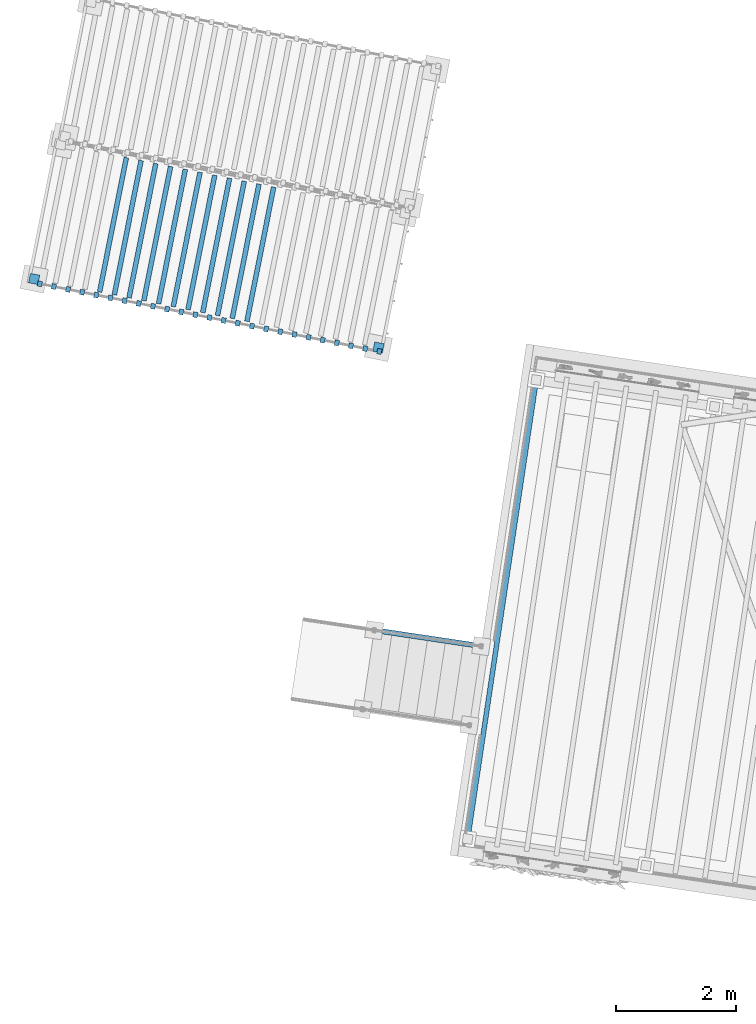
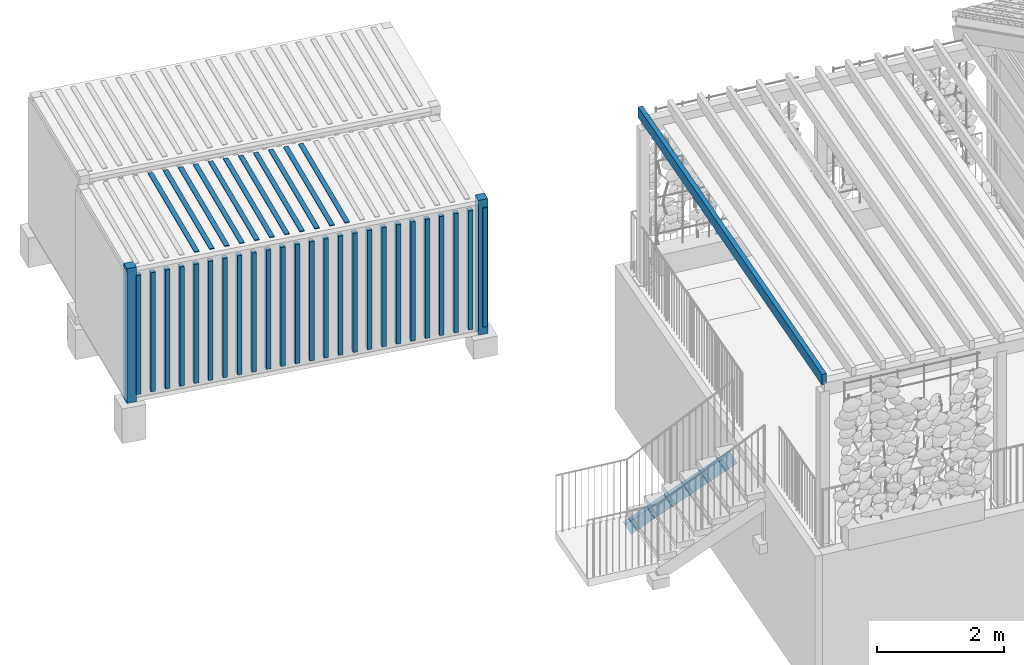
# One storey, part 23 of 128: 40 members, 3 elements without a shape of their own.
"""IFC4 building model written with IfcOpenShell, lengths in metres."""

from ifc_helpers import new_model, si_unit, direction, frame, origin_with_axes, place, context, subcontext, project, spatial, polyline, rectangle, outline, extrude, material, material_profile, profile_set, profile_usage, type_object, element, aggregate, save


model = new_model("IFC4")

# Units and contexts
model_context = context("Model", 3, precision=1e-05, world=origin_with_axes(), true_north=direction((0.0, 1.0)))
body_context = subcontext(model_context, "Body", "Model", "MODEL_VIEW")
ifc_project = project(units=[si_unit("VOLUMEUNIT", "CUBIC_METRE"), si_unit("LENGTHUNIT", "METRE"), si_unit("AREAUNIT", "SQUARE_METRE")], contexts=[model_context])

# Site, building, storey
site_placement = place(None, origin_with_axes())
site = spatial("IfcSite", under=ifc_project, at=site_placement, Name="Lares · Rua das Mercês · artigo 4771")
building_placement = place(site_placement, frame((15.0, 9.7, 13.9), z_axis=(0.0, 0.0, 1.0), x_axis=(0.989015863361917, -0.147809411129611, 0.0)))
building = spatial("IfcBuilding", under=site, at=building_placement, Name="Casa Sobreposta")
storey_placement = place(building_placement, origin_with_axes())
storey = spatial("IfcBuildingStorey", under=building, at=storey_placement, Name="00 · Habitação e estacionamento", Elevation=13.9)

# Stair, member
stair_placement = place(storey_placement, origin_with_axes())
stair = element("IfcStair", 1, at=stair_placement, inside=storey, Name="Jardim · escada pela fachada poente", PredefinedType="STRAIGHT_RUN_STAIR")
ifc_material_1 = material(Name="Aço pintado / Stahl lackiert", Category="steel")
ifc_material_profile_1 = material_profile(ifc_material_1, outline(polyline([(-0.0425, -0.12), (0.0425, -0.12), (0.0425, -0.1102), (-0.0325, -0.1102), (-0.0325, 0.1102), (0.0425, 0.1102), (0.0425, 0.12), (-0.0425, 0.12), (-0.0425, -0.12)])))
ifc_profile_set_1 = profile_set([ifc_material_profile_1], Name="C240")
ifc_profile_usage_1 = profile_usage(ifc_profile_set_1)
member_type_1 = type_object("IfcMemberType", Name="C240 / steel", PredefinedType="NOTDEFINED", material=ifc_profile_set_1)
member_1_placement = place(stair_placement, frame((-6.25, 1.765, -0.411428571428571), z_axis=(-0.892720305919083, 0.0, -0.450611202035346), x_axis=(0.0, 1.0, 0.0)))
member_1 = element("IfcMember", 2, at=member_1_placement, type_object=member_type_1, material=ifc_profile_usage_1, Name="Jardim · longarina poente", context=body_context, shape_type="SweptSolid", body=[
    extrude(outline(polyline([(-0.0425, -0.12), (0.0425, -0.12), (0.0425, -0.1102), (-0.0325, -0.1102), (-0.0325, 0.1102), (0.0425, 0.1102), (0.0425, 0.12), (-0.0425, 0.12), (-0.0425, -0.12)])), origin_with_axes(), (0.0, 0.0, 1.0), 2.01630901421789),
])
aggregate(stair, [member_1])

# Assembly, member
assembly_1_placement = place(storey_placement, origin_with_axes())
assembly_1 = element("IfcElementAssembly", 3, at=assembly_1_placement, inside=storey, Name="Pérgola de madeira · pátio 6 m", ObjectType="TIMBER_PATIO_PERGOLA", PredefinedType="USERDEFINED")
ifc_material_2 = material(Name="Madeira / Bauholz", Category="wood")
ifc_material_profile_2 = material_profile(ifc_material_2, rectangle(XDim=0.08, YDim=0.2))
ifc_profile_set_2 = profile_set([ifc_material_profile_2], Name="TIMBER0.080x0.200")
ifc_profile_usage_2 = profile_usage(ifc_profile_set_2)
member_type_2 = type_object("IfcMemberType", Name="TIMBER0.080x0.200 / timber", PredefinedType="NOTDEFINED", material=ifc_profile_set_2)
member_2_placement = place(assembly_1_placement, frame((-6.0, -1.5, 3.14), z_axis=(0.0, 1.0, 0.0), x_axis=(1.0, 0.0, 0.0)))
member_2 = element("IfcMember", 4, at=member_2_placement, type_object=member_type_2, material=ifc_profile_usage_2, Name="Pérgola · travessa", context=body_context, shape_type="SweptSolid", body=[
    extrude(rectangle(XDim=0.08, YDim=0.2), origin_with_axes(), (0.0, 0.0, 1.0), 7.9),
])
aggregate(assembly_1, [member_2])

# Assembly, members
assembly_2_placement = place(storey_placement, frame((-14.5932944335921, 6.63122214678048, 0.0), z_axis=(0.0, 0.0, 1.0), x_axis=(0.998832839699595, -0.0483007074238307, 0.0)))
assembly_2 = element("IfcElementAssembly", 5, at=assembly_2_placement, inside=storey, Name="Contentor existente 2 · 6 m", ObjectType="EXISTING_SHIPPING_CONTAINER", PredefinedType="USERDEFINED")
ifc_material_3 = material(Name="Contentor · pintura 2", Category="steel")
member_3_placement = place(assembly_2_placement, frame((0.0, 0.0, -0.418751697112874), z_axis=(0.0, 0.0, 1.0), x_axis=(1.0, 0.0, 0.0)))
member_3 = element("IfcMember", 6, at=member_3_placement, material=ifc_material_3, Name="Contentor · canto", context=body_context, shape_type="SweptSolid", body=[
    extrude(outline(polyline([(0.16, 0.0), (0.16, 0.16), (0.0, 0.16), (0.0, 0.0), (0.16, 0.0)])), origin_with_axes(), (0.0, 0.0, 1.0), 2.59),
])
member_4_placement = place(assembly_2_placement, frame((0.0, 0.0, -0.418751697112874), z_axis=(0.0, 0.0, 1.0), x_axis=(1.0, 0.0, 0.0)))
member_4 = element("IfcMember", 7, at=member_4_placement, material=ifc_material_3, Name="Contentor · canto", context=body_context, shape_type="SweptSolid", body=[
    extrude(outline(polyline([(6.0, 0.0), (6.0, 0.16), (5.84, 0.16), (5.84, 0.0), (6.0, 0.0)])), origin_with_axes(), (0.0, 0.0, 1.0), 2.59),
])
member_5_placement = place(assembly_2_placement, frame((0.0, 0.0, -0.268751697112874), z_axis=(0.0, 0.0, 1.0), x_axis=(1.0, 0.0, 0.0)))
member_5 = element("IfcMember", 8, at=member_5_placement, material=ifc_material_3, Name="Contentor · nervura lateral", context=body_context, shape_type="SweptSolid", body=[
    extrude(outline(polyline([(0.225, -0.025), (0.225, 0.065), (0.15, 0.065), (0.15, -0.025), (0.225, -0.025)])), origin_with_axes(), (0.0, 0.0, 1.0), 2.29),
])
member_6_placement = place(assembly_2_placement, frame((0.0, 0.0, -0.268751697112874), z_axis=(0.0, 0.0, 1.0), x_axis=(1.0, 0.0, 0.0)))
member_6 = element("IfcMember", 9, at=member_6_placement, material=ifc_material_3, Name="Contentor · nervura lateral", context=body_context, shape_type="SweptSolid", body=[
    extrude(outline(polyline([(0.465, -0.025), (0.465, 0.065), (0.39, 0.065), (0.39, -0.025), (0.465, -0.025)])), origin_with_axes(), (0.0, 0.0, 1.0), 2.29),
])
member_7_placement = place(assembly_2_placement, frame((0.0, 0.0, -0.268751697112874), z_axis=(0.0, 0.0, 1.0), x_axis=(1.0, 0.0, 0.0)))
member_7 = element("IfcMember", 10, at=member_7_placement, material=ifc_material_3, Name="Contentor · nervura lateral", context=body_context, shape_type="SweptSolid", body=[
    extrude(outline(polyline([(0.705, -0.025), (0.705, 0.065), (0.63, 0.065), (0.63, -0.025), (0.705, -0.025)])), origin_with_axes(), (0.0, 0.0, 1.0), 2.29),
])
member_8_placement = place(assembly_2_placement, frame((0.0, 0.0, -0.268751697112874), z_axis=(0.0, 0.0, 1.0), x_axis=(1.0, 0.0, 0.0)))
member_8 = element("IfcMember", 11, at=member_8_placement, material=ifc_material_3, Name="Contentor · nervura lateral", context=body_context, shape_type="SweptSolid", body=[
    extrude(outline(polyline([(0.945, -0.025), (0.945, 0.065), (0.87, 0.065), (0.87, -0.025), (0.945, -0.025)])), origin_with_axes(), (0.0, 0.0, 1.0), 2.29),
])
member_9_placement = place(assembly_2_placement, frame((0.0, 0.0, -0.268751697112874), z_axis=(0.0, 0.0, 1.0), x_axis=(1.0, 0.0, 0.0)))
member_9 = element("IfcMember", 12, at=member_9_placement, material=ifc_material_3, Name="Contentor · nervura lateral", context=body_context, shape_type="SweptSolid", body=[
    extrude(outline(polyline([(1.185, -0.025), (1.185, 0.065), (1.11, 0.065), (1.11, -0.025), (1.185, -0.025)])), origin_with_axes(), (0.0, 0.0, 1.0), 2.29),
])
member_10_placement = place(assembly_2_placement, frame((0.0, 0.0, -0.268751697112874), z_axis=(0.0, 0.0, 1.0), x_axis=(1.0, 0.0, 0.0)))
member_10 = element("IfcMember", 13, at=member_10_placement, material=ifc_material_3, Name="Contentor · nervura lateral", context=body_context, shape_type="SweptSolid", body=[
    extrude(outline(polyline([(1.425, -0.025), (1.425, 0.065), (1.35, 0.065), (1.35, -0.025), (1.425, -0.025)])), origin_with_axes(), (0.0, 0.0, 1.0), 2.29),
])
member_11_placement = place(assembly_2_placement, frame((0.0, 0.0, -0.268751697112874), z_axis=(0.0, 0.0, 1.0), x_axis=(1.0, 0.0, 0.0)))
member_11 = element("IfcMember", 14, at=member_11_placement, material=ifc_material_3, Name="Contentor · nervura lateral", context=body_context, shape_type="SweptSolid", body=[
    extrude(outline(polyline([(1.665, -0.025), (1.665, 0.065), (1.59, 0.065), (1.59, -0.025), (1.665, -0.025)])), origin_with_axes(), (0.0, 0.0, 1.0), 2.29),
])
member_12_placement = place(assembly_2_placement, frame((0.0, 0.0, -0.268751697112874), z_axis=(0.0, 0.0, 1.0), x_axis=(1.0, 0.0, 0.0)))
member_12 = element("IfcMember", 15, at=member_12_placement, material=ifc_material_3, Name="Contentor · nervura lateral", context=body_context, shape_type="SweptSolid", body=[
    extrude(outline(polyline([(1.905, -0.025), (1.905, 0.065), (1.83, 0.065), (1.83, -0.025), (1.905, -0.025)])), origin_with_axes(), (0.0, 0.0, 1.0), 2.29),
])
member_13_placement = place(assembly_2_placement, frame((0.0, 0.0, -0.268751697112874), z_axis=(0.0, 0.0, 1.0), x_axis=(1.0, 0.0, 0.0)))
member_13 = element("IfcMember", 16, at=member_13_placement, material=ifc_material_3, Name="Contentor · nervura lateral", context=body_context, shape_type="SweptSolid", body=[
    extrude(outline(polyline([(2.145, -0.025), (2.145, 0.065), (2.07, 0.065), (2.07, -0.025), (2.145, -0.025)])), origin_with_axes(), (0.0, 0.0, 1.0), 2.29),
])
member_14_placement = place(assembly_2_placement, frame((0.0, 0.0, -0.268751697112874), z_axis=(0.0, 0.0, 1.0), x_axis=(1.0, 0.0, 0.0)))
member_14 = element("IfcMember", 17, at=member_14_placement, material=ifc_material_3, Name="Contentor · nervura lateral", context=body_context, shape_type="SweptSolid", body=[
    extrude(outline(polyline([(2.385, -0.025), (2.385, 0.065), (2.31, 0.065), (2.31, -0.025), (2.385, -0.025)])), origin_with_axes(), (0.0, 0.0, 1.0), 2.29),
])
member_15_placement = place(assembly_2_placement, frame((0.0, 0.0, -0.268751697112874), z_axis=(0.0, 0.0, 1.0), x_axis=(1.0, 0.0, 0.0)))
member_15 = element("IfcMember", 18, at=member_15_placement, material=ifc_material_3, Name="Contentor · nervura lateral", context=body_context, shape_type="SweptSolid", body=[
    extrude(outline(polyline([(2.625, -0.025), (2.625, 0.065), (2.55, 0.065), (2.55, -0.025), (2.625, -0.025)])), origin_with_axes(), (0.0, 0.0, 1.0), 2.29),
])
member_16_placement = place(assembly_2_placement, frame((0.0, 0.0, -0.268751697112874), z_axis=(0.0, 0.0, 1.0), x_axis=(1.0, 0.0, 0.0)))
member_16 = element("IfcMember", 19, at=member_16_placement, material=ifc_material_3, Name="Contentor · nervura lateral", context=body_context, shape_type="SweptSolid", body=[
    extrude(outline(polyline([(2.865, -0.025), (2.865, 0.065), (2.79, 0.065), (2.79, -0.025), (2.865, -0.025)])), origin_with_axes(), (0.0, 0.0, 1.0), 2.29),
])
member_17_placement = place(assembly_2_placement, frame((0.0, 0.0, -0.268751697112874), z_axis=(0.0, 0.0, 1.0), x_axis=(1.0, 0.0, 0.0)))
member_17 = element("IfcMember", 20, at=member_17_placement, material=ifc_material_3, Name="Contentor · nervura lateral", context=body_context, shape_type="SweptSolid", body=[
    extrude(outline(polyline([(3.105, -0.025), (3.105, 0.065), (3.03, 0.065), (3.03, -0.025), (3.105, -0.025)])), origin_with_axes(), (0.0, 0.0, 1.0), 2.29),
])
member_18_placement = place(assembly_2_placement, frame((0.0, 0.0, -0.268751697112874), z_axis=(0.0, 0.0, 1.0), x_axis=(1.0, 0.0, 0.0)))
member_18 = element("IfcMember", 21, at=member_18_placement, material=ifc_material_3, Name="Contentor · nervura lateral", context=body_context, shape_type="SweptSolid", body=[
    extrude(outline(polyline([(3.345, -0.025), (3.345, 0.065), (3.27, 0.065), (3.27, -0.025), (3.345, -0.025)])), origin_with_axes(), (0.0, 0.0, 1.0), 2.29),
])
member_19_placement = place(assembly_2_placement, frame((0.0, 0.0, -0.268751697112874), z_axis=(0.0, 0.0, 1.0), x_axis=(1.0, 0.0, 0.0)))
member_19 = element("IfcMember", 22, at=member_19_placement, material=ifc_material_3, Name="Contentor · nervura lateral", context=body_context, shape_type="SweptSolid", body=[
    extrude(outline(polyline([(3.585, -0.025), (3.585, 0.065), (3.51, 0.065), (3.51, -0.025), (3.585, -0.025)])), origin_with_axes(), (0.0, 0.0, 1.0), 2.29),
])
member_20_placement = place(assembly_2_placement, frame((0.0, 0.0, -0.268751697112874), z_axis=(0.0, 0.0, 1.0), x_axis=(1.0, 0.0, 0.0)))
member_20 = element("IfcMember", 23, at=member_20_placement, material=ifc_material_3, Name="Contentor · nervura lateral", context=body_context, shape_type="SweptSolid", body=[
    extrude(outline(polyline([(3.825, -0.025), (3.825, 0.065), (3.75, 0.065), (3.75, -0.025), (3.825, -0.025)])), origin_with_axes(), (0.0, 0.0, 1.0), 2.29),
])
member_21_placement = place(assembly_2_placement, frame((0.0, 0.0, -0.268751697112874), z_axis=(0.0, 0.0, 1.0), x_axis=(1.0, 0.0, 0.0)))
member_21 = element("IfcMember", 24, at=member_21_placement, material=ifc_material_3, Name="Contentor · nervura lateral", context=body_context, shape_type="SweptSolid", body=[
    extrude(outline(polyline([(4.065, -0.025), (4.065, 0.065), (3.99, 0.065), (3.99, -0.025), (4.065, -0.025)])), origin_with_axes(), (0.0, 0.0, 1.0), 2.29),
])
member_22_placement = place(assembly_2_placement, frame((0.0, 0.0, -0.268751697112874), z_axis=(0.0, 0.0, 1.0), x_axis=(1.0, 0.0, 0.0)))
member_22 = element("IfcMember", 25, at=member_22_placement, material=ifc_material_3, Name="Contentor · nervura lateral", context=body_context, shape_type="SweptSolid", body=[
    extrude(outline(polyline([(4.305, -0.025), (4.305, 0.065), (4.23, 0.065), (4.23, -0.025), (4.305, -0.025)])), origin_with_axes(), (0.0, 0.0, 1.0), 2.29),
])
member_23_placement = place(assembly_2_placement, frame((0.0, 0.0, -0.268751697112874), z_axis=(0.0, 0.0, 1.0), x_axis=(1.0, 0.0, 0.0)))
member_23 = element("IfcMember", 26, at=member_23_placement, material=ifc_material_3, Name="Contentor · nervura lateral", context=body_context, shape_type="SweptSolid", body=[
    extrude(outline(polyline([(4.545, -0.025), (4.545, 0.065), (4.47, 0.065), (4.47, -0.025), (4.545, -0.025)])), origin_with_axes(), (0.0, 0.0, 1.0), 2.29),
])
member_24_placement = place(assembly_2_placement, frame((0.0, 0.0, -0.268751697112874), z_axis=(0.0, 0.0, 1.0), x_axis=(1.0, 0.0, 0.0)))
member_24 = element("IfcMember", 27, at=member_24_placement, material=ifc_material_3, Name="Contentor · nervura lateral", context=body_context, shape_type="SweptSolid", body=[
    extrude(outline(polyline([(4.785, -0.025), (4.785, 0.065), (4.71, 0.065), (4.71, -0.025), (4.785, -0.025)])), origin_with_axes(), (0.0, 0.0, 1.0), 2.29),
])
member_25_placement = place(assembly_2_placement, frame((0.0, 0.0, -0.268751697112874), z_axis=(0.0, 0.0, 1.0), x_axis=(1.0, 0.0, 0.0)))
member_25 = element("IfcMember", 28, at=member_25_placement, material=ifc_material_3, Name="Contentor · nervura lateral", context=body_context, shape_type="SweptSolid", body=[
    extrude(outline(polyline([(5.025, -0.025), (5.025, 0.065), (4.95, 0.065), (4.95, -0.025), (5.025, -0.025)])), origin_with_axes(), (0.0, 0.0, 1.0), 2.29),
])
member_26_placement = place(assembly_2_placement, frame((0.0, 0.0, -0.268751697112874), z_axis=(0.0, 0.0, 1.0), x_axis=(1.0, 0.0, 0.0)))
member_26 = element("IfcMember", 29, at=member_26_placement, material=ifc_material_3, Name="Contentor · nervura lateral", context=body_context, shape_type="SweptSolid", body=[
    extrude(outline(polyline([(5.265, -0.025), (5.265, 0.065), (5.19, 0.065), (5.19, -0.025), (5.265, -0.025)])), origin_with_axes(), (0.0, 0.0, 1.0), 2.29),
])
member_27_placement = place(assembly_2_placement, frame((0.0, 0.0, -0.268751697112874), z_axis=(0.0, 0.0, 1.0), x_axis=(1.0, 0.0, 0.0)))
member_27 = element("IfcMember", 30, at=member_27_placement, material=ifc_material_3, Name="Contentor · nervura lateral", context=body_context, shape_type="SweptSolid", body=[
    extrude(outline(polyline([(5.505, -0.025), (5.505, 0.065), (5.43, 0.065), (5.43, -0.025), (5.505, -0.025)])), origin_with_axes(), (0.0, 0.0, 1.0), 2.29),
])
member_28_placement = place(assembly_2_placement, frame((0.0, 0.0, -0.268751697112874), z_axis=(0.0, 0.0, 1.0), x_axis=(1.0, 0.0, 0.0)))
member_28 = element("IfcMember", 31, at=member_28_placement, material=ifc_material_3, Name="Contentor · nervura lateral", context=body_context, shape_type="SweptSolid", body=[
    extrude(outline(polyline([(5.745, -0.025), (5.745, 0.065), (5.67, 0.065), (5.67, -0.025), (5.745, -0.025)])), origin_with_axes(), (0.0, 0.0, 1.0), 2.29),
])
member_29_placement = place(assembly_2_placement, frame((0.0, 0.0, -0.268751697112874), z_axis=(0.0, 0.0, 1.0), x_axis=(1.0, 0.0, 0.0)))
member_29 = element("IfcMember", 32, at=member_29_placement, material=ifc_material_3, Name="Contentor · nervura lateral", context=body_context, shape_type="SweptSolid", body=[
    extrude(outline(polyline([(5.985, -0.025), (5.985, 0.065), (5.91, 0.065), (5.91, -0.025), (5.985, -0.025)])), origin_with_axes(), (0.0, 0.0, 1.0), 2.29),
])
member_30_placement = place(assembly_2_placement, frame((0.0, 0.0, 2.16624830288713), z_axis=(0.0, 0.0, 1.0), x_axis=(1.0, 0.0, 0.0)))
member_30 = element("IfcMember", 33, at=member_30_placement, material=ifc_material_3, Name="Contentor · nervura cobertura", context=body_context, shape_type="SweptSolid", body=[
    extrude(outline(polyline([(1.23, 0.08), (1.23, 2.36), (1.15, 2.36), (1.15, 0.08), (1.23, 0.08)])), origin_with_axes(), (0.0, 0.0, 1.0), 0.018),
])
member_31_placement = place(assembly_2_placement, frame((0.0, 0.0, 2.16624830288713), z_axis=(0.0, 0.0, 1.0), x_axis=(1.0, 0.0, 0.0)))
member_31 = element("IfcMember", 34, at=member_31_placement, material=ifc_material_3, Name="Contentor · nervura cobertura", context=body_context, shape_type="SweptSolid", body=[
    extrude(outline(polyline([(1.48, 0.08), (1.48, 2.36), (1.4, 2.36), (1.4, 0.08), (1.48, 0.08)])), origin_with_axes(), (0.0, 0.0, 1.0), 0.018),
])
member_32_placement = place(assembly_2_placement, frame((0.0, 0.0, 2.16624830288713), z_axis=(0.0, 0.0, 1.0), x_axis=(1.0, 0.0, 0.0)))
member_32 = element("IfcMember", 35, at=member_32_placement, material=ifc_material_3, Name="Contentor · nervura cobertura", context=body_context, shape_type="SweptSolid", body=[
    extrude(outline(polyline([(1.73, 0.08), (1.73, 2.36), (1.65, 2.36), (1.65, 0.08), (1.73, 0.08)])), origin_with_axes(), (0.0, 0.0, 1.0), 0.018),
])
member_33_placement = place(assembly_2_placement, frame((0.0, 0.0, 2.16624830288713), z_axis=(0.0, 0.0, 1.0), x_axis=(1.0, 0.0, 0.0)))
member_33 = element("IfcMember", 36, at=member_33_placement, material=ifc_material_3, Name="Contentor · nervura cobertura", context=body_context, shape_type="SweptSolid", body=[
    extrude(outline(polyline([(1.98, 0.08), (1.98, 2.36), (1.9, 2.36), (1.9, 0.08), (1.98, 0.08)])), origin_with_axes(), (0.0, 0.0, 1.0), 0.018),
])
member_34_placement = place(assembly_2_placement, frame((0.0, 0.0, 2.16624830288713), z_axis=(0.0, 0.0, 1.0), x_axis=(1.0, 0.0, 0.0)))
member_34 = element("IfcMember", 37, at=member_34_placement, material=ifc_material_3, Name="Contentor · nervura cobertura", context=body_context, shape_type="SweptSolid", body=[
    extrude(outline(polyline([(2.23, 0.08), (2.23, 2.36), (2.15, 2.36), (2.15, 0.08), (2.23, 0.08)])), origin_with_axes(), (0.0, 0.0, 1.0), 0.018),
])
member_35_placement = place(assembly_2_placement, frame((0.0, 0.0, 2.16624830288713), z_axis=(0.0, 0.0, 1.0), x_axis=(1.0, 0.0, 0.0)))
member_35 = element("IfcMember", 38, at=member_35_placement, material=ifc_material_3, Name="Contentor · nervura cobertura", context=body_context, shape_type="SweptSolid", body=[
    extrude(outline(polyline([(2.48, 0.08), (2.48, 2.36), (2.4, 2.36), (2.4, 0.08), (2.48, 0.08)])), origin_with_axes(), (0.0, 0.0, 1.0), 0.018),
])
member_36_placement = place(assembly_2_placement, frame((0.0, 0.0, 2.16624830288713), z_axis=(0.0, 0.0, 1.0), x_axis=(1.0, 0.0, 0.0)))
member_36 = element("IfcMember", 39, at=member_36_placement, material=ifc_material_3, Name="Contentor · nervura cobertura", context=body_context, shape_type="SweptSolid", body=[
    extrude(outline(polyline([(2.73, 0.08), (2.73, 2.36), (2.65, 2.36), (2.65, 0.08), (2.73, 0.08)])), origin_with_axes(), (0.0, 0.0, 1.0), 0.018),
])
member_37_placement = place(assembly_2_placement, frame((0.0, 0.0, 2.16624830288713), z_axis=(0.0, 0.0, 1.0), x_axis=(1.0, 0.0, 0.0)))
member_37 = element("IfcMember", 40, at=member_37_placement, material=ifc_material_3, Name="Contentor · nervura cobertura", context=body_context, shape_type="SweptSolid", body=[
    extrude(outline(polyline([(2.98, 0.08), (2.98, 2.36), (2.9, 2.36), (2.9, 0.08), (2.98, 0.08)])), origin_with_axes(), (0.0, 0.0, 1.0), 0.018),
])
member_38_placement = place(assembly_2_placement, frame((0.0, 0.0, 2.16624830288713), z_axis=(0.0, 0.0, 1.0), x_axis=(1.0, 0.0, 0.0)))
member_38 = element("IfcMember", 41, at=member_38_placement, material=ifc_material_3, Name="Contentor · nervura cobertura", context=body_context, shape_type="SweptSolid", body=[
    extrude(outline(polyline([(3.23, 0.08), (3.23, 2.36), (3.15, 2.36), (3.15, 0.08), (3.23, 0.08)])), origin_with_axes(), (0.0, 0.0, 1.0), 0.018),
])
member_39_placement = place(assembly_2_placement, frame((0.0, 0.0, 2.16624830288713), z_axis=(0.0, 0.0, 1.0), x_axis=(1.0, 0.0, 0.0)))
member_39 = element("IfcMember", 42, at=member_39_placement, material=ifc_material_3, Name="Contentor · nervura cobertura", context=body_context, shape_type="SweptSolid", body=[
    extrude(outline(polyline([(3.48, 0.08), (3.48, 2.36), (3.4, 2.36), (3.4, 0.08), (3.48, 0.08)])), origin_with_axes(), (0.0, 0.0, 1.0), 0.018),
])
member_40_placement = place(assembly_2_placement, frame((0.0, 0.0, 2.16624830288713), z_axis=(0.0, 0.0, 1.0), x_axis=(1.0, 0.0, 0.0)))
member_40 = element("IfcMember", 43, at=member_40_placement, material=ifc_material_3, Name="Contentor · nervura cobertura", context=body_context, shape_type="SweptSolid", body=[
    extrude(outline(polyline([(3.73, 0.08), (3.73, 2.36), (3.65, 2.36), (3.65, 0.08), (3.73, 0.08)])), origin_with_axes(), (0.0, 0.0, 1.0), 0.018),
])
aggregate(assembly_2, [member_3, member_4, member_5, member_6, member_7, member_8, member_9, member_10, member_11, member_12, member_13, member_14, member_15, member_16, member_17, member_18, member_19, member_20, member_21, member_22, member_23, member_24, member_25, member_26, member_27, member_28, member_29, member_30, member_31, member_32, member_33, member_34, member_35, member_36, member_37, member_38, member_39, member_40])

save(model, "model.ifc")
